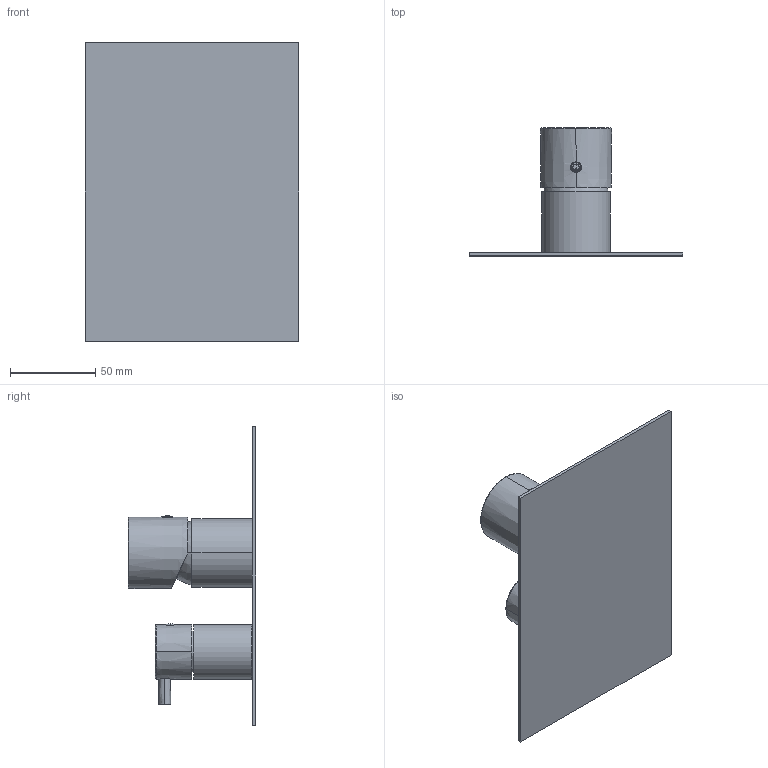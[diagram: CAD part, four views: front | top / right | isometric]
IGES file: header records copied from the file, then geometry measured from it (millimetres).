
Start section:  PTC IGES file: 78541s_sw0001.igs
Global section: file name: 78541s_sw0001.igs; native system: Creo Parametric by PTC Inc.; preprocessor: 2018100; author: volponeff; organization: Unknown; date: 20200923.110928; units: millimetre
Bounding box: 125 x 74.9 x 175 mm (x, y, z)
Surface area: 74287.7 mm2 (no closed solid volume)
Topology: 0 solids, 0 shells, 177 faces, 888 edges, 880 vertices
Faces by surface type: revolution 95, bspline 82
